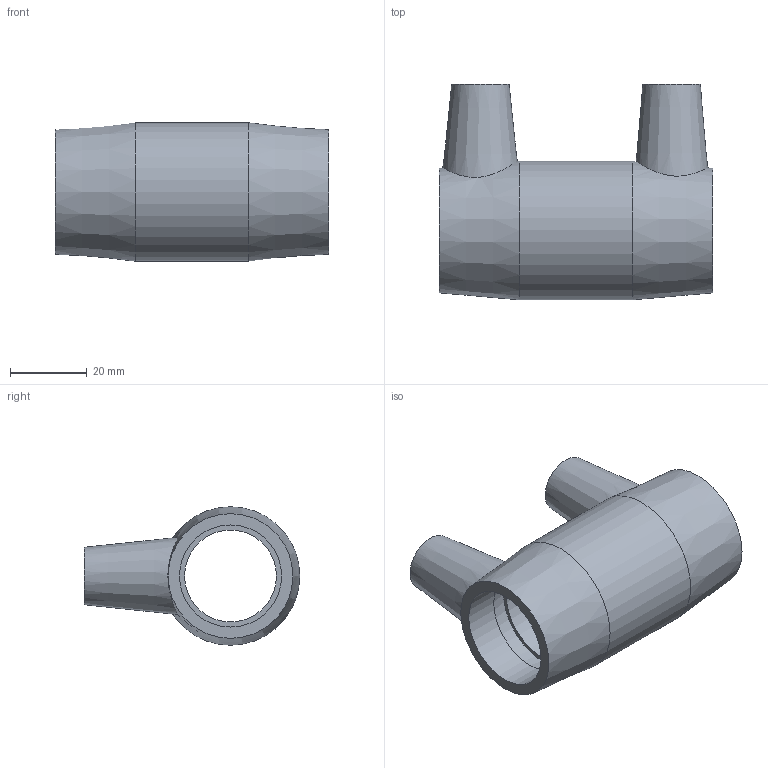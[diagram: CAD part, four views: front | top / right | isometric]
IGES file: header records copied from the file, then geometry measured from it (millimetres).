
Global section: file name: 4911N4025020.ipt; native system: Autodesk Inventor 2019; preprocessor: unknown; author: KIM; date: 20210830.100807; units: inch
Bounding box: 71.12 x 56.13 x 36.07 mm (x, y, z)
Volume: 39168.8 mm3; surface area: 17993.4 mm2
Topology: 1 solids, 1 shells, 29 faces, 68 edges, 49 vertices
Faces by surface type: plane 12, revolution 10, cone 4, cylinder 3
Full cylindrical faces by diameter (mm): 4 x2, 36.068 x1
